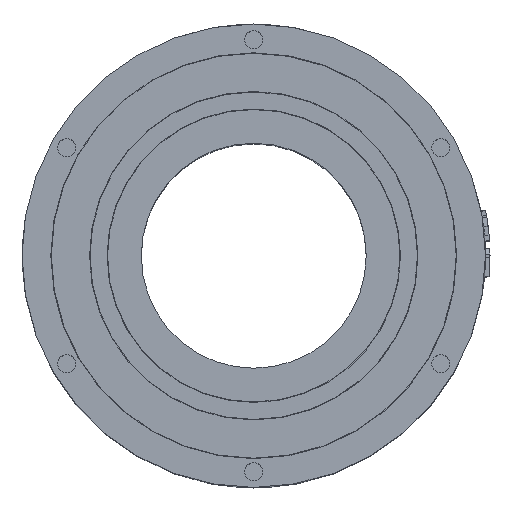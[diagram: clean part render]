
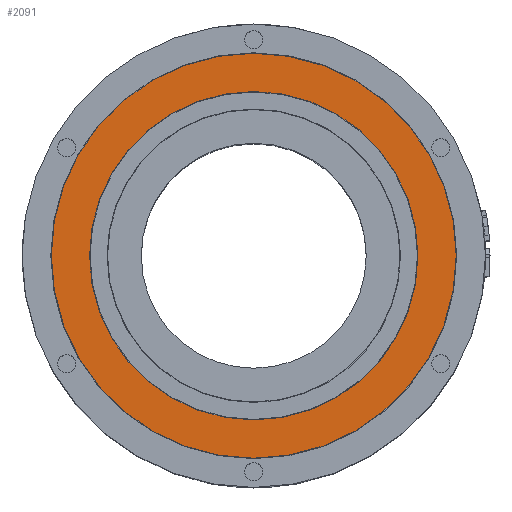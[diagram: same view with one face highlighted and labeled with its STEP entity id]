
A CAD part, top view. The second image highlights one B-rep face of the part: STEP entity #2091.
In plain terms, the highlighted planar face has unit normal (0, 0, 1).
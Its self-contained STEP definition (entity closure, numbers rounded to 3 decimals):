
#2091=ADVANCED_FACE('',(#2657,#2658),#2492,.F.);
#2492=PLANE('',#6953);
#2657=FACE_BOUND('',#2871,.T.);
#2658=FACE_BOUND('',#2872,.T.);
#2871=EDGE_LOOP('',(#3405));
#2872=EDGE_LOOP('',(#3406));
#3405=ORIENTED_EDGE('',*,*,#5895,.F.);
#3406=ORIENTED_EDGE('',*,*,#5896,.F.);
#5249=VERTEX_POINT('',#8592);
#5250=VERTEX_POINT('',#8594);
#5895=EDGE_CURVE('',#5249,#5249,#6817,.T.);
#5896=EDGE_CURVE('',#5250,#5250,#6818,.T.);
#6817=CIRCLE('',#6951,36.485);
#6818=CIRCLE('',#6952,45.);
#6951=AXIS2_PLACEMENT_3D('',#8591,#7323,#7324);
#6952=AXIS2_PLACEMENT_3D('',#8593,#7325,#7326);
#6953=AXIS2_PLACEMENT_3D('',#8595,#7327,#7328);
#7323=DIRECTION('',(0.,0.,1.));
#7324=DIRECTION('',(-1.,0.,0.));
#7325=DIRECTION('',(0.,0.,-1.));
#7326=DIRECTION('',(1.,0.,0.));
#7327=DIRECTION('',(0.,0.,-1.));
#7328=DIRECTION('',(1.,0.,0.));
#8591=CARTESIAN_POINT('',(0.,0.,90.));
#8592=CARTESIAN_POINT('',(-36.485,0.,90.));
#8593=CARTESIAN_POINT('',(0.,0.,90.));
#8594=CARTESIAN_POINT('',(45.,0.,90.));
#8595=CARTESIAN_POINT('',(0.,0.,90.));
